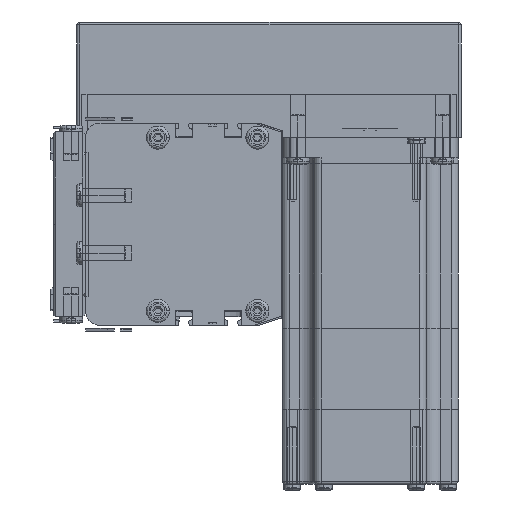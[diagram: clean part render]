
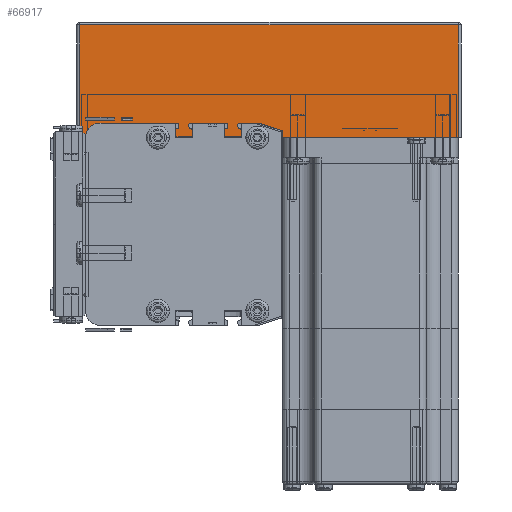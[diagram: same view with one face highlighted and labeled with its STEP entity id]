
A CAD part, left-side view. The second image highlights one B-rep face of the part: STEP entity #66917.
In plain terms, the highlighted planar face has unit normal (-1, 0, 0) as drawn and (0, 1, 0) by its records, which use the part's own axes.
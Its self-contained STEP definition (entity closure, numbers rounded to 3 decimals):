
#66374 = VERTEX_POINT ( 'NONE', #140305 ) ;
#66403 = VERTEX_POINT ( 'NONE', #140452 ) ;
#66593 = VERTEX_POINT ( 'NONE', #140838 ) ;
#66595 = VERTEX_POINT ( 'NONE', #140836 ) ;
#66607 = EDGE_CURVE ( 'NONE', #66595, #66374, #140832, .T. ) ;
#66623 = ORIENTED_EDGE ( 'NONE', *, *, #66607, .T. ) ;
#66626 = EDGE_CURVE ( 'NONE', #66403, #66593, #140814, .T. ) ;
#66651 = EDGE_CURVE ( 'NONE', #66593, #66595, #141014, .T. ) ;
#66659 = ORIENTED_EDGE ( 'NONE', *, *, #66700, .T. ) ;
#66700 = EDGE_CURVE ( 'NONE', #66374, #66403, #141289, .T. ) ;
#66917 = ADVANCED_FACE ( 'NONE', ( #142329 ), #142321, .F. ) ;
#66920 = ORIENTED_EDGE ( 'NONE', *, *, #66651, .T. ) ;
#66951 = EDGE_LOOP ( 'NONE', ( #66920, #66623, #66659, #67076 ) ) ;
#67076 = ORIENTED_EDGE ( 'NONE', *, *, #66626, .T. ) ;
#140305 = CARTESIAN_POINT ( 'NONE',  ( 132., 62., 0. ) ) ;
#140452 = CARTESIAN_POINT ( 'NONE',  ( 1., 62., 0. ) ) ;
#140814 = LINE ( 'NONE', #140897, #140896 ) ;
#140832 = LINE ( 'NONE', #140931, #140929 ) ;
#140836 = CARTESIAN_POINT ( 'NONE',  ( 132., 62., 39. ) ) ;
#140838 = CARTESIAN_POINT ( 'NONE',  ( 1., 62., 39. ) ) ;
#140888 = DIRECTION ( 'NONE',  ( 0., 0., 1. ) ) ;
#140896 = VECTOR ( 'NONE', #140888, 1000. ) ;
#140897 = CARTESIAN_POINT ( 'NONE',  ( 1., 62., 40. ) ) ;
#140927 = DIRECTION ( 'NONE',  ( 0., 0., -1. ) ) ;
#140929 = VECTOR ( 'NONE', #140927, 1000. ) ;
#140931 = CARTESIAN_POINT ( 'NONE',  ( 132., 62., 40. ) ) ;
#140961 = DIRECTION ( 'NONE',  ( 1., 0., 0. ) ) ;
#140963 = VECTOR ( 'NONE', #140961, 1000. ) ;
#141013 = CARTESIAN_POINT ( 'NONE',  ( 0., 62., 39. ) ) ;
#141014 = LINE ( 'NONE', #141013, #140963 ) ;
#141269 = DIRECTION ( 'NONE',  ( -1., 0., 0. ) ) ;
#141270 = VECTOR ( 'NONE', #141269, 1000. ) ;
#141272 = CARTESIAN_POINT ( 'NONE',  ( 0., 62., 0. ) ) ;
#141289 = LINE ( 'NONE', #141272, #141270 ) ;
#142303 = DIRECTION ( 'NONE',  ( 0., 0., -1. ) ) ;
#142304 = DIRECTION ( 'NONE',  ( 0., -1., 0. ) ) ;
#142305 = CARTESIAN_POINT ( 'NONE',  ( 0., 62., 40. ) ) ;
#142321 = PLANE ( 'NONE',  #142361 ) ;
#142329 = FACE_OUTER_BOUND ( 'NONE', #66951, .T. ) ;
#142361 = AXIS2_PLACEMENT_3D ( 'NONE', #142305, #142304, #142303 ) ;
